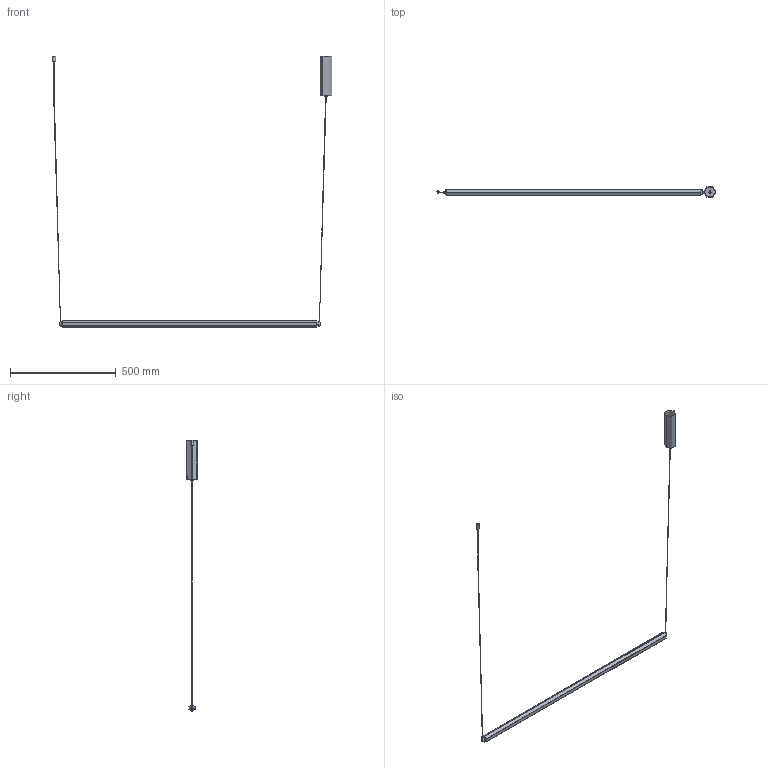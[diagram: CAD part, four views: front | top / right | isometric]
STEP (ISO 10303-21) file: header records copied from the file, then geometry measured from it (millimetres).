
FILE_DESCRIPTION(/* description */ (''),/* implementation_level */ '2;1');
FILE_NAME(/* name */ '64682-111_3d',/* time_stamp */ '2026-05-25T13:15:51+02:00',/* author */ (''),/* organization */ (''),/* preprocessor_version */ 'ST-DEVELOPER v19.2',/* originating_system */ 'Rhino 8.30',/* authorisation */ '');
FILE_SCHEMA (('CONFIG_CONTROL_DESIGN'));
Length unit declared in the file: millimetre
Products named in the file (1): Document
Bounding box: 1319.41 x 47.63 x 1280.24 mm (x, y, z)
Volume: 478163.1 mm3; surface area: 287104.2 mm2
Topology: 4 solids, 10 shells, 124 faces, 335 edges, 216 vertices
Faces by surface type: cylinder 52, plane 46, bspline 26
Entity records: 9216 total; most frequent: CARTESIAN_POINT 6533, ORIENTED_EDGE 644, EDGE_CURVE 329, DIRECTION 302, VERTEX_POINT 216, AXIS2_PLACEMENT_3D 199, B_SPLINE_CURVE_WITH_KNOTS 184, EDGE_LOOP 140
